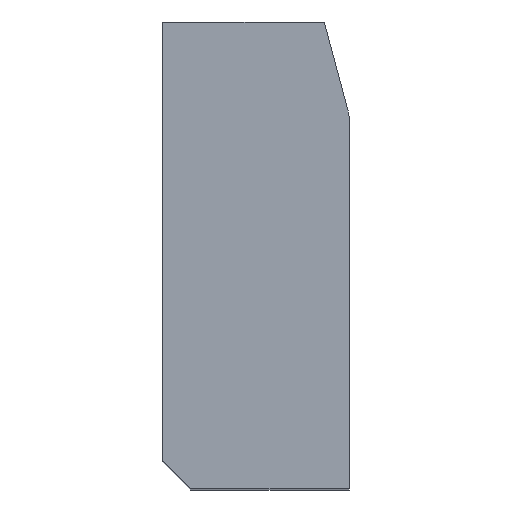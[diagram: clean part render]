
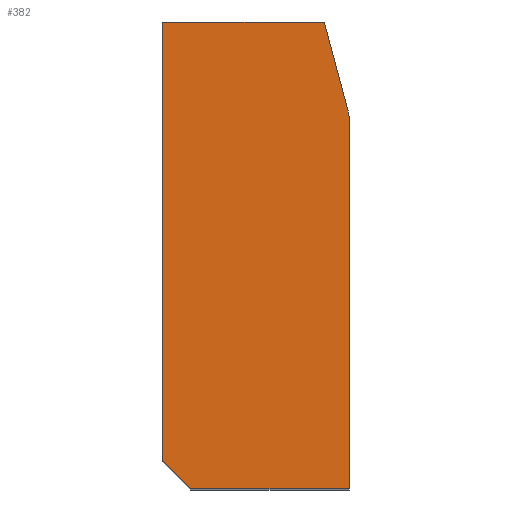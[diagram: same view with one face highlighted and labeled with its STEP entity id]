
A CAD part, top view. The second image highlights one B-rep face of the part: STEP entity #382.
In plain terms, the highlighted planar face has unit normal (0, 0, 1).
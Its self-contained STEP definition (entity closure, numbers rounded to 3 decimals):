
#70=CARTESIAN_POINT('Vertex',(0.,3.,40.)) ;
#73=CARTESIAN_POINT('Line Origine',(0.,26.5,40.)) ;
#77=CARTESIAN_POINT('Vertex',(0.,50.,40.)) ;
#320=CARTESIAN_POINT('Vertex',(3.,0.,40.)) ;
#323=CARTESIAN_POINT('Line Origine',(1.5,1.5,40.)) ;
#335=CARTESIAN_POINT('Axis2P3D Location',(15.,39.342,40.)) ;
#340=CARTESIAN_POINT('Line Origine',(11.5,0.,40.)) ;
#344=CARTESIAN_POINT('Vertex',(20.,0.,40.)) ;
#347=CARTESIAN_POINT('Line Origine',(20.,19.671,40.)) ;
#351=CARTESIAN_POINT('Vertex',(20.,39.342,40.)) ;
#354=CARTESIAN_POINT('Axis2P3D Location',(15.,39.342,40.)) ;
#358=CARTESIAN_POINT('Vertex',(19.83,40.636,40.)) ;
#361=CARTESIAN_POINT('Line Origine',(18.575,45.318,40.)) ;
#365=CARTESIAN_POINT('Vertex',(17.321,50.,40.)) ;
#368=CARTESIAN_POINT('Line Origine',(8.66,50.,40.)) ;
#74=DIRECTION('Vector Direction',(0.,-1.,0.)) ;
#324=DIRECTION('Vector Direction',(0.707,-0.707,0.)) ;
#336=DIRECTION('Axis2P3D Direction',(0.,0.,1.)) ;
#337=DIRECTION('Axis2P3D XDirection',(1.,0.,-0.)) ;
#341=DIRECTION('Vector Direction',(1.,0.,0.)) ;
#348=DIRECTION('Vector Direction',(0.,1.,0.)) ;
#355=DIRECTION('Axis2P3D Direction',(0.,0.,1.)) ;
#362=DIRECTION('Vector Direction',(-0.259,0.966,0.)) ;
#369=DIRECTION('Vector Direction',(-1.,0.,0.)) ;
#338=AXIS2_PLACEMENT_3D('Plane Axis2P3D',#335,#336,#337) ;
#356=AXIS2_PLACEMENT_3D('Circle Axis2P3D',#354,#355,$) ;
#374=ORIENTED_EDGE('',*,*,#79,.T.) ;
#375=ORIENTED_EDGE('',*,*,#327,.T.) ;
#376=ORIENTED_EDGE('',*,*,#346,.T.) ;
#377=ORIENTED_EDGE('',*,*,#353,.T.) ;
#378=ORIENTED_EDGE('',*,*,#360,.T.) ;
#379=ORIENTED_EDGE('',*,*,#367,.T.) ;
#380=ORIENTED_EDGE('',*,*,#372,.T.) ;
#75=VECTOR('Line Direction',#74,1.) ;
#325=VECTOR('Line Direction',#324,1.) ;
#342=VECTOR('Line Direction',#341,1.) ;
#349=VECTOR('Line Direction',#348,1.) ;
#363=VECTOR('Line Direction',#362,1.) ;
#370=VECTOR('Line Direction',#369,1.) ;
#382=ADVANCED_FACE('A915-80X50',(#381),#339,.T.) ;
#357=CIRCLE('generated circle',#356,5.) ;
#79=EDGE_CURVE('',#78,#71,#76,.T.) ;
#327=EDGE_CURVE('',#71,#321,#326,.T.) ;
#346=EDGE_CURVE('',#321,#345,#343,.T.) ;
#353=EDGE_CURVE('',#345,#352,#350,.T.) ;
#360=EDGE_CURVE('',#352,#359,#357,.T.) ;
#367=EDGE_CURVE('',#359,#366,#364,.T.) ;
#372=EDGE_CURVE('',#366,#78,#371,.T.) ;
#373=EDGE_LOOP('',(#374,#375,#376,#377,#378,#379,#380)) ;
#381=FACE_OUTER_BOUND('',#373,.T.) ;
#76=LINE('Line',#73,#75) ;
#326=LINE('Line',#323,#325) ;
#343=LINE('Line',#340,#342) ;
#350=LINE('Line',#347,#349) ;
#364=LINE('Line',#361,#363) ;
#371=LINE('Line',#368,#370) ;
#339=PLANE('Plane',#338) ;
#71=VERTEX_POINT('',#70) ;
#78=VERTEX_POINT('',#77) ;
#321=VERTEX_POINT('',#320) ;
#345=VERTEX_POINT('',#344) ;
#352=VERTEX_POINT('',#351) ;
#359=VERTEX_POINT('',#358) ;
#366=VERTEX_POINT('',#365) ;
